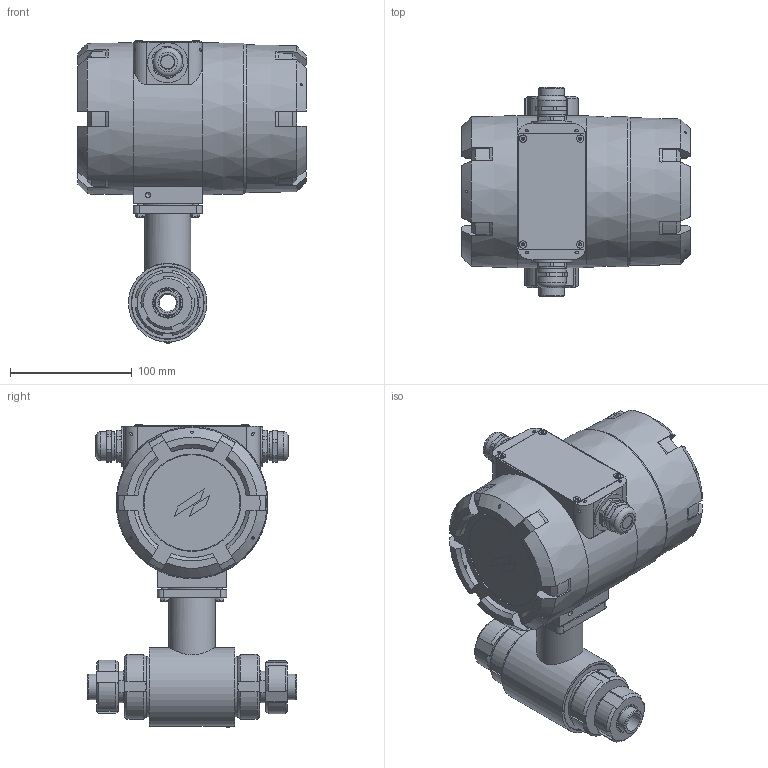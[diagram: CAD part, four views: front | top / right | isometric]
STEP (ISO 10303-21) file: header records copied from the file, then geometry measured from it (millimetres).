
FILE_DESCRIPTION(('STEP AP214'), '1');
FILE_NAME('ÂÇËÅÒ ÒÝÐ DN15 ïèùåâîé', '', ('UNSPECIFIED'), ('UNSPECIFIED'), 'ASCON STEP Converter 1.6', 'ASCON Math Kernel', '');
FILE_SCHEMA(('AUTOMOTIVE_DESIGN { 1 0 10303 214 3 1 1}'));
Length unit declared in the file: millimetre
Products named in the file (1): 婽挭.407212.002-01.01
Bounding box: 188 x 171.94 x 248.46 mm (x, y, z)
Volume: 1138364.2 mm3; surface area: 357178 mm2
Topology: 8 solids, 10 shells, 914 faces, 2264 edges, 1471 vertices
Faces by surface type: plane 441, cylinder 261, cone 158, torus 37, bspline 16, sphere 1
Full cylindrical faces by diameter (mm): 2 x14, 2.459 x4, 3.242 x2, 3.959 x10, 4 x5, 4.459 x1, 5 x4, 5.6 x1, 6 x14, 8 x2, 10 x4, 12 x2, 14 x1, 15 x2, 16 x7, 17.835 x1, 18 x4, 18.376 x1, 19 x2, 19.2 x2, 19.7 x2, 20 x2, 20.1 x2, 21 x4, 22 x2, 23 x1, 24 x6, 25 x2, 26 x4, 27 x1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
Entity records: 63475 total; most frequent: CARTESIAN_POINT 35548, DIRECTION 4099, ORIENTED_EDGE 4004, EDGE_CURVE 2002, AXIS2_PLACEMENT_3D 1657, VERTEX_POINT 1460, EDGE_LOOP 1352, FACE_BOUND 963
